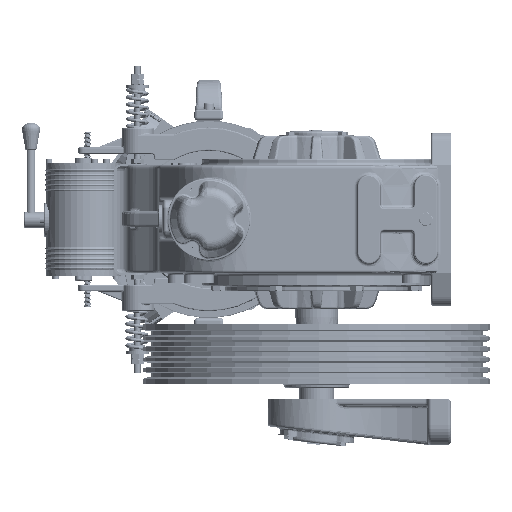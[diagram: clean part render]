
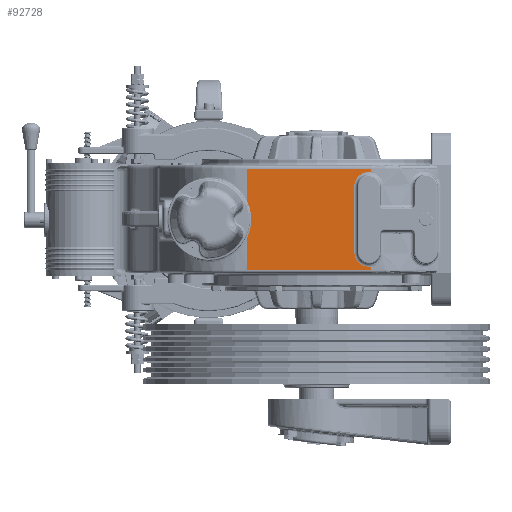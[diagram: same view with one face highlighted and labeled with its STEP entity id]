
A CAD part, left-side view. The second image highlights one B-rep face of the part: STEP entity #92728.
In plain terms, the highlighted planar face has unit normal (-1, 0, 0).
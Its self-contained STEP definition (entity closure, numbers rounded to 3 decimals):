
#10329 = EDGE_CURVE ( 'NONE', #254944, #450023, #72730, .T. ) ;
#13881 = ORIENTED_EDGE ( 'NONE', *, *, #500101, .T. ) ;
#15408 = VECTOR ( 'NONE', #334757, 1000. ) ;
#17514 = AXIS2_PLACEMENT_3D ( 'NONE', #306160, #263783, #383046 ) ;
#19214 = CARTESIAN_POINT ( 'NONE',  ( -709.192, 76.869, 82.5 ) ) ;
#26960 = CIRCLE ( 'NONE', #17514, 22.5 ) ;
#35241 = VERTEX_POINT ( 'NONE', #175335 ) ;
#38100 = EDGE_CURVE ( 'NONE', #371549, #218646, #254630, .T. ) ;
#40735 = ORIENTED_EDGE ( 'NONE', *, *, #447752, .T. ) ;
#44711 = ORIENTED_EDGE ( 'NONE', *, *, #38100, .T. ) ;
#55217 = CARTESIAN_POINT ( 'NONE',  ( -709.192, -109.23, 50. ) ) ;
#56509 = CARTESIAN_POINT ( 'NONE',  ( -709.192, -112.249, -77.5 ) ) ;
#59091 = VERTEX_POINT ( 'NONE', #88282 ) ;
#69663 = CARTESIAN_POINT ( 'NONE',  ( -709.192, 76.869, 82.5 ) ) ;
#72730 = LINE ( 'NONE', #75337, #511083 ) ;
#75337 = CARTESIAN_POINT ( 'NONE',  ( -709.192, -112.249, -77.5 ) ) ;
#83654 = AXIS2_PLACEMENT_3D ( 'NONE', #281950, #276688, #350973 ) ;
#88282 = CARTESIAN_POINT ( 'NONE',  ( -709.192, -86.73, -50. ) ) ;
#92495 = DIRECTION ( 'NONE',  ( 0., 0., -1. ) ) ;
#92728 = ADVANCED_FACE ( 'NONE', ( #398573 ), #311240, .F. ) ;
#93531 = LINE ( 'NONE', #19214, #15408 ) ;
#97699 = DIRECTION ( 'NONE',  ( 1., 0., 0. ) ) ;
#98219 = CARTESIAN_POINT ( 'NONE',  ( -709.192, -112.249, 77.5 ) ) ;
#109047 = EDGE_CURVE ( 'NONE', #435734, #218646, #519509, .T. ) ;
#110393 = CARTESIAN_POINT ( 'NONE',  ( -709.192, 76.869, -77.5 ) ) ;
#113003 = ORIENTED_EDGE ( 'NONE', *, *, #166670, .T. ) ;
#113148 = EDGE_CURVE ( 'NONE', #253548, #59091, #26960, .T. ) ;
#116621 = CARTESIAN_POINT ( 'NONE',  ( -709.192, -112.249, 82.5 ) ) ;
#124398 = VERTEX_POINT ( 'NONE', #200832 ) ;
#128847 = ORIENTED_EDGE ( 'NONE', *, *, #109047, .F. ) ;
#144445 = AXIS2_PLACEMENT_3D ( 'NONE', #55217, #471199, #510986 ) ;
#145522 = CARTESIAN_POINT ( 'NONE',  ( -709.192, 76.869, 27.489 ) ) ;
#160612 = VECTOR ( 'NONE', #278301, 1000. ) ;
#162209 = CARTESIAN_POINT ( 'NONE',  ( -709.192, -86.73, 50. ) ) ;
#166670 = EDGE_CURVE ( 'NONE', #435734, #124398, #339418, .T. ) ;
#175335 = CARTESIAN_POINT ( 'NONE',  ( -709.192, -112.249, -72.296 ) ) ;
#175836 = CARTESIAN_POINT ( 'NONE',  ( -709.192, 76.869, -27.489 ) ) ;
#183259 = DIRECTION ( 'NONE',  ( 0., 0., -1. ) ) ;
#187800 = CIRCLE ( 'NONE', #323238, 65. ) ;
#194763 = VERTEX_POINT ( 'NONE', #175836 ) ;
#200832 = CARTESIAN_POINT ( 'NONE',  ( -709.192, 76.869, 77.5 ) ) ;
#218646 = VERTEX_POINT ( 'NONE', #240802 ) ;
#224555 = VECTOR ( 'NONE', #406050, 1000. ) ;
#231413 = DIRECTION ( 'NONE',  ( 0., 0., -1. ) ) ;
#238701 = EDGE_LOOP ( 'NONE', ( #285356, #375367, #340803, #293937, #491984, #13881, #251704, #40735, #44711, #128847, #113003 ) ) ;
#240802 = CARTESIAN_POINT ( 'NONE',  ( -709.192, -112.249, 72.296 ) ) ;
#251704 = ORIENTED_EDGE ( 'NONE', *, *, #113148, .T. ) ;
#253548 = VERTEX_POINT ( 'NONE', #358729 ) ;
#254630 = CIRCLE ( 'NONE', #144445, 22.5 ) ;
#254944 = VERTEX_POINT ( 'NONE', #110393 ) ;
#263783 = DIRECTION ( 'NONE',  ( 1., 0., 0. ) ) ;
#269084 = EDGE_CURVE ( 'NONE', #478233, #194763, #187800, .T. ) ;
#276688 = DIRECTION ( 'NONE',  ( 1., 0., 0. ) ) ;
#278301 = DIRECTION ( 'NONE',  ( 0., 0., -1. ) ) ;
#281950 = CARTESIAN_POINT ( 'NONE',  ( -709.192, -112.249, 82.5 ) ) ;
#285356 = ORIENTED_EDGE ( 'NONE', *, *, #305077, .T. ) ;
#285474 = LINE ( 'NONE', #489529, #346707 ) ;
#293937 = ORIENTED_EDGE ( 'NONE', *, *, #10329, .T. ) ;
#305077 = EDGE_CURVE ( 'NONE', #124398, #478233, #470029, .T. ) ;
#305176 = CARTESIAN_POINT ( 'NONE',  ( -709.192, 135.77, 0. ) ) ;
#306160 = CARTESIAN_POINT ( 'NONE',  ( -709.192, -109.23, -50. ) ) ;
#307108 = CIRCLE ( 'NONE', #494486, 22.5 ) ;
#311240 = PLANE ( 'NONE',  #83654 ) ;
#323238 = AXIS2_PLACEMENT_3D ( 'NONE', #305176, #466833, #183259 ) ;
#334757 = DIRECTION ( 'NONE',  ( 0., 0., -1. ) ) ;
#339418 = LINE ( 'NONE', #98219, #484638 ) ;
#340803 = ORIENTED_EDGE ( 'NONE', *, *, #353752, .T. ) ;
#346707 = VECTOR ( 'NONE', #362354, 1000. ) ;
#350973 = DIRECTION ( 'NONE',  ( 0., 0., -1. ) ) ;
#353752 = EDGE_CURVE ( 'NONE', #194763, #254944, #93531, .T. ) ;
#358729 = CARTESIAN_POINT ( 'NONE',  ( -709.192, -109.23, -72.5 ) ) ;
#361014 = LINE ( 'NONE', #162209, #224555 ) ;
#362354 = DIRECTION ( 'NONE',  ( 0., 0., -1. ) ) ;
#371549 = VERTEX_POINT ( 'NONE', #460720 ) ;
#375367 = ORIENTED_EDGE ( 'NONE', *, *, #269084, .T. ) ;
#383046 = DIRECTION ( 'NONE',  ( 0., 0., -1. ) ) ;
#398573 = FACE_OUTER_BOUND ( 'NONE', #238701, .T. ) ;
#404738 = CARTESIAN_POINT ( 'NONE',  ( -709.192, -112.249, 77.5 ) ) ;
#406050 = DIRECTION ( 'NONE',  ( 0., 0., 1. ) ) ;
#408161 = VECTOR ( 'NONE', #231413, 1000. ) ;
#421571 = DIRECTION ( 'NONE',  ( 0., 1., 0. ) ) ;
#428076 = DIRECTION ( 'NONE',  ( 0., -1., 0. ) ) ;
#435734 = VERTEX_POINT ( 'NONE', #404738 ) ;
#447752 = EDGE_CURVE ( 'NONE', #59091, #371549, #361014, .T. ) ;
#450023 = VERTEX_POINT ( 'NONE', #56509 ) ;
#460720 = CARTESIAN_POINT ( 'NONE',  ( -709.192, -86.73, 50. ) ) ;
#466833 = DIRECTION ( 'NONE',  ( 1., 0., 0. ) ) ;
#470029 = LINE ( 'NONE', #69663, #408161 ) ;
#471199 = DIRECTION ( 'NONE',  ( 1., 0., 0. ) ) ;
#475268 = EDGE_CURVE ( 'NONE', #35241, #450023, #285474, .T. ) ;
#478233 = VERTEX_POINT ( 'NONE', #145522 ) ;
#484638 = VECTOR ( 'NONE', #421571, 1000. ) ;
#489529 = CARTESIAN_POINT ( 'NONE',  ( -709.192, -112.249, 82.5 ) ) ;
#491984 = ORIENTED_EDGE ( 'NONE', *, *, #475268, .F. ) ;
#494486 = AXIS2_PLACEMENT_3D ( 'NONE', #500636, #97699, #92495 ) ;
#500101 = EDGE_CURVE ( 'NONE', #35241, #253548, #307108, .T. ) ;
#500636 = CARTESIAN_POINT ( 'NONE',  ( -709.192, -109.23, -50. ) ) ;
#510986 = DIRECTION ( 'NONE',  ( 0., 0., -1. ) ) ;
#511083 = VECTOR ( 'NONE', #428076, 1000. ) ;
#519509 = LINE ( 'NONE', #116621, #160612 ) ;
